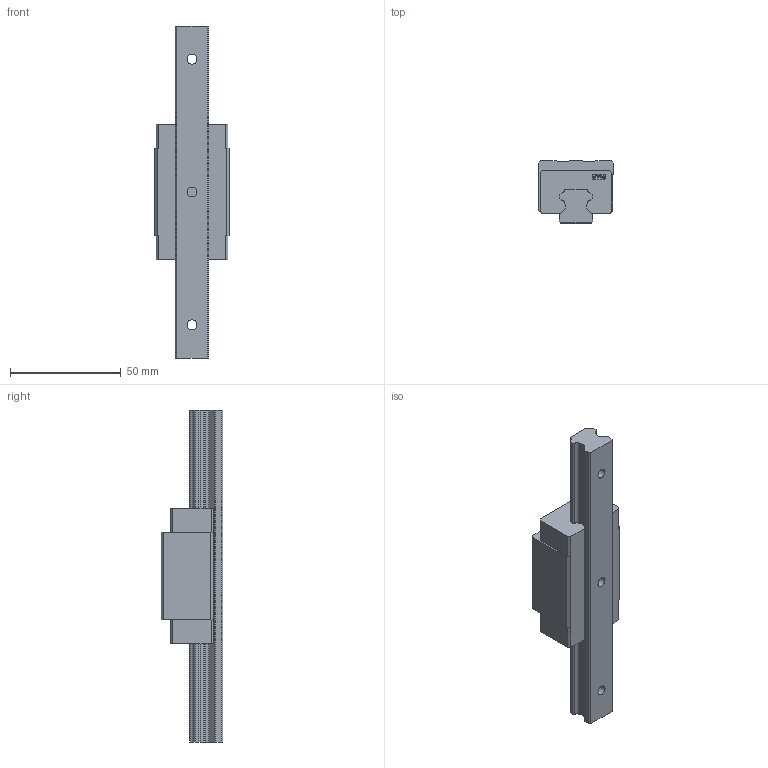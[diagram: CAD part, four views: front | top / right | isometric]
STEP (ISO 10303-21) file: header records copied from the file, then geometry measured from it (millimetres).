
FILE_DESCRIPTION (( 'STEP AP214' ), '1' );
FILE_NAME ('7.1016 Lineaarikelkka HTH15CA.STEP', '2026-03-11T06:15:32', ( '' ), ( '' ), 'SwSTEP 2.0', 'SolidWorks 2025', '' );
FILE_SCHEMA (( 'AUTOMOTIVE_DESIGN' ));
Length unit declared in the file: millimetre
Products named in the file (3): 7.1016 Lineaarikelkka HTH15CA; HTH15; HTR15
Assembly tree (2 placements, depth 2):
  7.1016 Lineaarikelkka HTH15CA
    HTH15
    HTR15
Bounding box: 34 x 28 x 150 mm (x, y, z)
Volume: 64493.8 mm3; surface area: 20099.7 mm2
Topology: 2 solids, 2 shells, 218 faces, 588 edges, 392 vertices
Faces by surface type: plane 149, cylinder 46, bspline 23
Entity records: 10914 total; most frequent: CARTESIAN_POINT 2974, ORIENTED_EDGE 1176, DIRECTION 1034, EDGE_CURVE 588, LINE 450, VECTOR 450, VERTEX_POINT 392, AXIS2_PLACEMENT_3D 292
